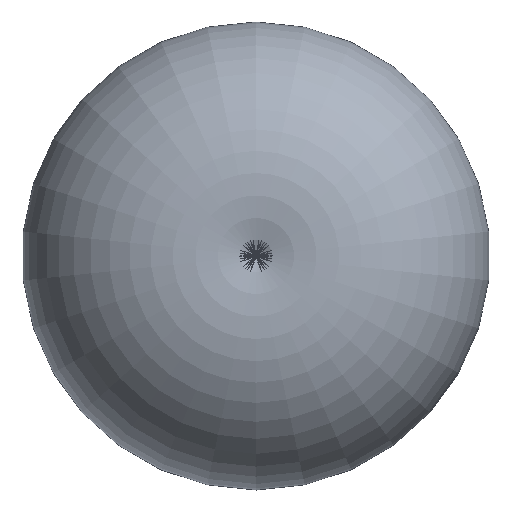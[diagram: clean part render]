
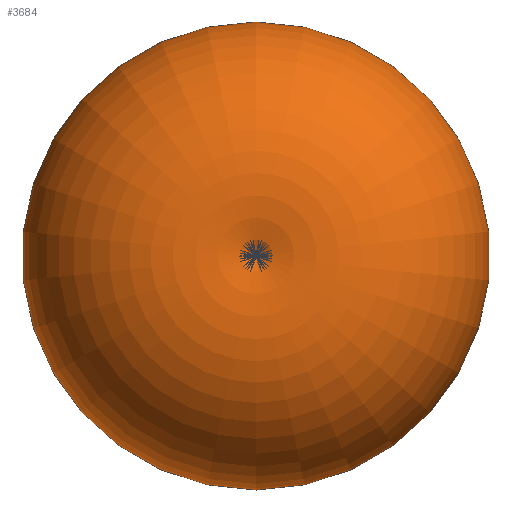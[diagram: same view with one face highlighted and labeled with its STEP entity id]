
A CAD part, front view. The second image highlights one B-rep face of the part: STEP entity #3684.
In plain terms, the highlighted toroidal (fillet/blend) face has major radius 92.669 mm and minor radius 249.936 mm.
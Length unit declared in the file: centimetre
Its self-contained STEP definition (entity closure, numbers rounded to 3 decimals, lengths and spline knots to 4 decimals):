
#213=DEGENERATE_TOROIDAL_SURFACE('',#3979,9.2669,24.9936,.F.);
#220=B_SPLINE_CURVE_WITH_KNOTS('',3,(#5628,#5629,#5630,#5631,#5632,#5633,
#5634,#5635,#5636,#5637,#5638,#5639,#5640,#5641),.UNSPECIFIED.,.F.,.U.,(4,
2,2,2,2,2,4),(33.119,33.853,34.5871,35.3212,
36.0552,36.7893,37.5234),.UNSPECIFIED.);
#912=VERTEX_POINT('',#5626);
#914=VERTEX_POINT('',#5642);
#1260=CIRCLE('',#3980,11.8972);
#1462=EDGE_CURVE('',#914,#912,#220,.T.);
#1573=EDGE_CURVE('',#912,#914,#1260,.T.);
#2221=ORIENTED_EDGE('',*,*,#1462,.T.);
#2222=ORIENTED_EDGE('',*,*,#1573,.T.);
#3077=EDGE_LOOP('',(#2221,#2222));
#3394=FACE_BOUND('',#3077,.T.);
#3684=ADVANCED_FACE('',(#3394),#213,.T.);
#3979=AXIS2_PLACEMENT_3D('',#6479,#4591,$);
#3980=AXIS2_PLACEMENT_3D('',#6480,#4592,#4593);
#4591=DIRECTION('',(0.,1.,0.));
#4592=DIRECTION('',(0.,1.,0.));
#4593=DIRECTION('',(-11.897,0.,0.));
#5626=CARTESIAN_POINT('',(2.2196,5.7733,-11.6883));
#5628=CARTESIAN_POINT('',(-2.3148,5.744,-11.6885));
#5629=CARTESIAN_POINT('',(-2.0653,5.8225,-11.6879));
#5630=CARTESIAN_POINT('',(-1.8068,5.8904,-11.6873));
#5631=CARTESIAN_POINT('',(-1.2845,5.999,-11.6863));
#5632=CARTESIAN_POINT('',(-1.0205,6.0396,-11.686));
#5633=CARTESIAN_POINT('',(-0.5006,6.0925,-11.6855));
#5634=CARTESIAN_POINT('',(-0.2447,6.1046,-11.6854));
#5635=CARTESIAN_POINT('',(0.2447,6.1046,-11.6854));
#5636=CARTESIAN_POINT('',(0.5006,6.0925,-11.6855));
#5637=CARTESIAN_POINT('',(1.0205,6.0396,-11.686));
#5638=CARTESIAN_POINT('',(1.2845,5.999,-11.6863));
#5639=CARTESIAN_POINT('',(1.8068,5.8904,-11.6873));
#5640=CARTESIAN_POINT('',(2.0653,5.8225,-11.6879));
#5641=CARTESIAN_POINT('',(2.3148,5.744,-11.6885));
#5642=CARTESIAN_POINT('',(-2.2196,5.7733,-11.6883));
#6479=CARTESIAN_POINT('',(0.,-7.5219,0.));
#6480=CARTESIAN_POINT('',(0.,5.7733,0.));
